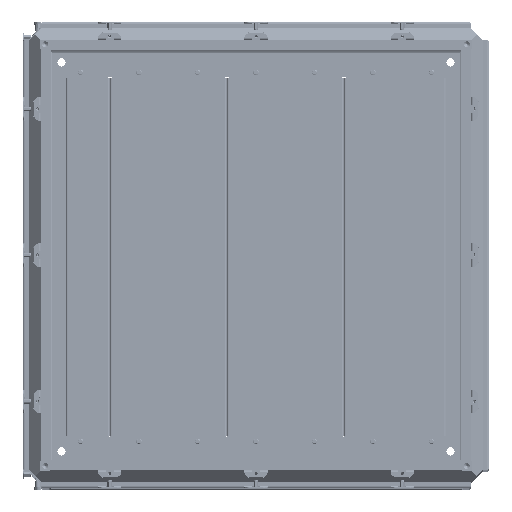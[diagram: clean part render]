
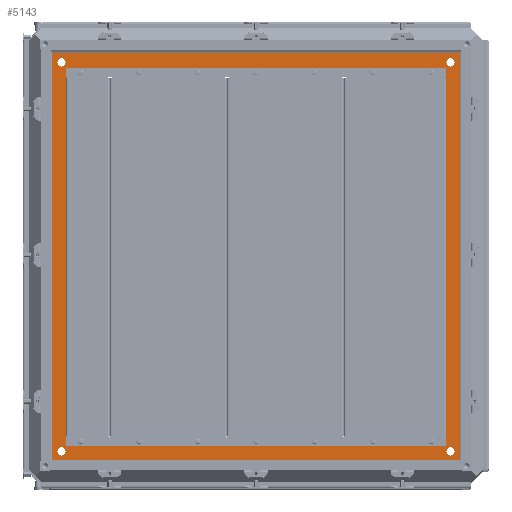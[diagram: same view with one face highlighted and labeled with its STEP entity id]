
A CAD part, top view. The second image highlights one B-rep face of the part: STEP entity #5143.
In plain terms, the highlighted planar face has unit normal (0, 0, 1).
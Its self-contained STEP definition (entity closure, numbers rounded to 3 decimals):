
#5143=ADVANCED_FACE('',(#18693,#18695,#18697,#18699,#18701,#18703),#18705,.F.);
#18693=FACE_BOUND('',#18694,.T.);
#18694=EDGE_LOOP('',(#123249,#123250,#123251,#123252));
#18695=FACE_BOUND('',#18696,.T.);
#18696=EDGE_LOOP('',(#123253,#123254,#123255,#123256));
#18697=FACE_BOUND('',#18698,.T.);
#18698=EDGE_LOOP('',(#123257));
#18699=FACE_BOUND('',#18700,.T.);
#18700=EDGE_LOOP('',(#123258));
#18701=FACE_BOUND('',#18702,.T.);
#18702=EDGE_LOOP('',(#123259));
#18703=FACE_BOUND('',#18704,.T.);
#18704=EDGE_LOOP('',(#123260));
#18705=PLANE('',#18706);
#18706=AXIS2_PLACEMENT_3D('',#18707,#18708,#18709);
#18707=CARTESIAN_POINT('',(0.,0.,-47.5));
#18708=DIRECTION('',(0.,0.,-1.));
#18709=DIRECTION('',(0.,1.,0.));
#123249=ORIENTED_EDGE('',*,*,#186839,.F.);
#123250=ORIENTED_EDGE('',*,*,#186840,.F.);
#123251=ORIENTED_EDGE('',*,*,#186841,.T.);
#123252=ORIENTED_EDGE('',*,*,#186842,.T.);
#123253=ORIENTED_EDGE('',*,*,#186843,.T.);
#123254=ORIENTED_EDGE('',*,*,#186844,.F.);
#123255=ORIENTED_EDGE('',*,*,#186845,.F.);
#123256=ORIENTED_EDGE('',*,*,#186846,.F.);
#123257=ORIENTED_EDGE('',*,*,#186847,.T.);
#123258=ORIENTED_EDGE('',*,*,#186848,.F.);
#123259=ORIENTED_EDGE('',*,*,#186849,.F.);
#123260=ORIENTED_EDGE('',*,*,#186850,.T.);
#186839=EDGE_CURVE('',#219566,#219567,#219568,.F.);
#186840=EDGE_CURVE('',#219569,#219566,#219570,.F.);
#186841=EDGE_CURVE('',#219569,#219571,#219572,.F.);
#186842=EDGE_CURVE('',#219571,#219567,#219573,.F.);
#186843=EDGE_CURVE('',#219574,#219575,#219576,.F.);
#186844=EDGE_CURVE('',#219577,#219575,#219578,.F.);
#186845=EDGE_CURVE('',#219579,#219577,#219580,.F.);
#186846=EDGE_CURVE('',#219574,#219579,#219581,.F.);
#186847=EDGE_CURVE('',#219582,#219582,#219583,.T.);
#186848=EDGE_CURVE('',#219584,#219584,#219585,.T.);
#186849=EDGE_CURVE('',#219586,#219586,#219587,.T.);
#186850=EDGE_CURVE('',#219588,#219588,#219589,.T.);
#219566=VERTEX_POINT('',#276559);
#219567=VERTEX_POINT('',#276560);
#219568=LINE('',#276561,#276562);
#219569=VERTEX_POINT('',#276564);
#219570=LINE('',#276565,#276566);
#219571=VERTEX_POINT('',#276568);
#219572=LINE('',#276569,#276570);
#219573=LINE('',#276572,#276573);
#219574=VERTEX_POINT('',#276575);
#219575=VERTEX_POINT('',#276576);
#219576=LINE('',#276577,#276578);
#219577=VERTEX_POINT('',#276580);
#219578=LINE('',#276581,#276582);
#219579=VERTEX_POINT('',#276584);
#219580=LINE('',#276585,#276586);
#219581=LINE('',#276588,#276589);
#219582=VERTEX_POINT('',#276591);
#219583=CIRCLE('',#276592,7.);
#219584=VERTEX_POINT('',#276596);
#219585=CIRCLE('',#276597,7.);
#219586=VERTEX_POINT('',#276601);
#219587=CIRCLE('',#276602,7.);
#219588=VERTEX_POINT('',#276606);
#219589=CIRCLE('',#276607,7.);
#276559=CARTESIAN_POINT('',(-1.6,1.6,-47.5));
#276560=CARTESIAN_POINT('',(-700.4,1.6,-47.5));
#276561=CARTESIAN_POINT('',(-700.4,1.6,-47.5));
#276562=VECTOR('',#276563,1.);
#276563=DIRECTION('',(1.,0.,0.));
#276564=CARTESIAN_POINT('',(-1.6,700.4,-47.5));
#276565=CARTESIAN_POINT('',(-1.6,1.6,-47.5));
#276566=VECTOR('',#276567,1.);
#276567=DIRECTION('',(0.,1.,0.));
#276568=CARTESIAN_POINT('',(-700.4,700.4,-47.5));
#276569=CARTESIAN_POINT('',(-700.4,700.4,-47.5));
#276570=VECTOR('',#276571,1.);
#276571=DIRECTION('',(1.,0.,0.));
#276572=CARTESIAN_POINT('',(-700.4,1.6,-47.5));
#276573=VECTOR('',#276574,1.);
#276574=DIRECTION('',(0.,1.,0.));
#276575=CARTESIAN_POINT('',(-39.4,39.4,-47.5));
#276576=CARTESIAN_POINT('',(-662.6,39.4,-47.5));
#276577=CARTESIAN_POINT('',(-662.6,39.4,-47.5));
#276578=VECTOR('',#276579,1.);
#276579=DIRECTION('',(1.,0.,0.));
#276580=CARTESIAN_POINT('',(-662.6,662.6,-47.5));
#276581=CARTESIAN_POINT('',(-662.6,39.4,-47.5));
#276582=VECTOR('',#276583,1.);
#276583=DIRECTION('',(0.,1.,0.));
#276584=CARTESIAN_POINT('',(-39.4,662.6,-47.5));
#276585=CARTESIAN_POINT('',(-662.6,662.6,-47.5));
#276586=VECTOR('',#276587,1.);
#276587=DIRECTION('',(1.,0.,0.));
#276588=CARTESIAN_POINT('',(-39.4,662.6,-47.5));
#276589=VECTOR('',#276590,1.);
#276590=DIRECTION('',(0.,-1.,0.));
#276591=CARTESIAN_POINT('',(-18.5,25.5,-47.5));
#276592=AXIS2_PLACEMENT_3D('',#276593,#276594,#276595);
#276593=CARTESIAN_POINT('',(-18.5,18.5,-47.5));
#276594=DIRECTION('',(0.,0.,-1.));
#276595=DIRECTION('',(0.,1.,0.));
#276596=CARTESIAN_POINT('',(-683.5,25.5,-47.5));
#276597=AXIS2_PLACEMENT_3D('',#276598,#276599,#276600);
#276598=CARTESIAN_POINT('',(-683.5,18.5,-47.5));
#276599=DIRECTION('',(0.,0.,1.));
#276600=DIRECTION('',(0.,1.,0.));
#276601=CARTESIAN_POINT('',(-18.5,676.5,-47.5));
#276602=AXIS2_PLACEMENT_3D('',#276603,#276604,#276605);
#276603=CARTESIAN_POINT('',(-18.5,683.5,-47.5));
#276604=DIRECTION('',(0.,0.,1.));
#276605=DIRECTION('',(0.,-1.,0.));
#276606=CARTESIAN_POINT('',(-683.5,676.5,-47.5));
#276607=AXIS2_PLACEMENT_3D('',#276608,#276609,#276610);
#276608=CARTESIAN_POINT('',(-683.5,683.5,-47.5));
#276609=DIRECTION('',(0.,0.,-1.));
#276610=DIRECTION('',(0.,-1.,0.));
